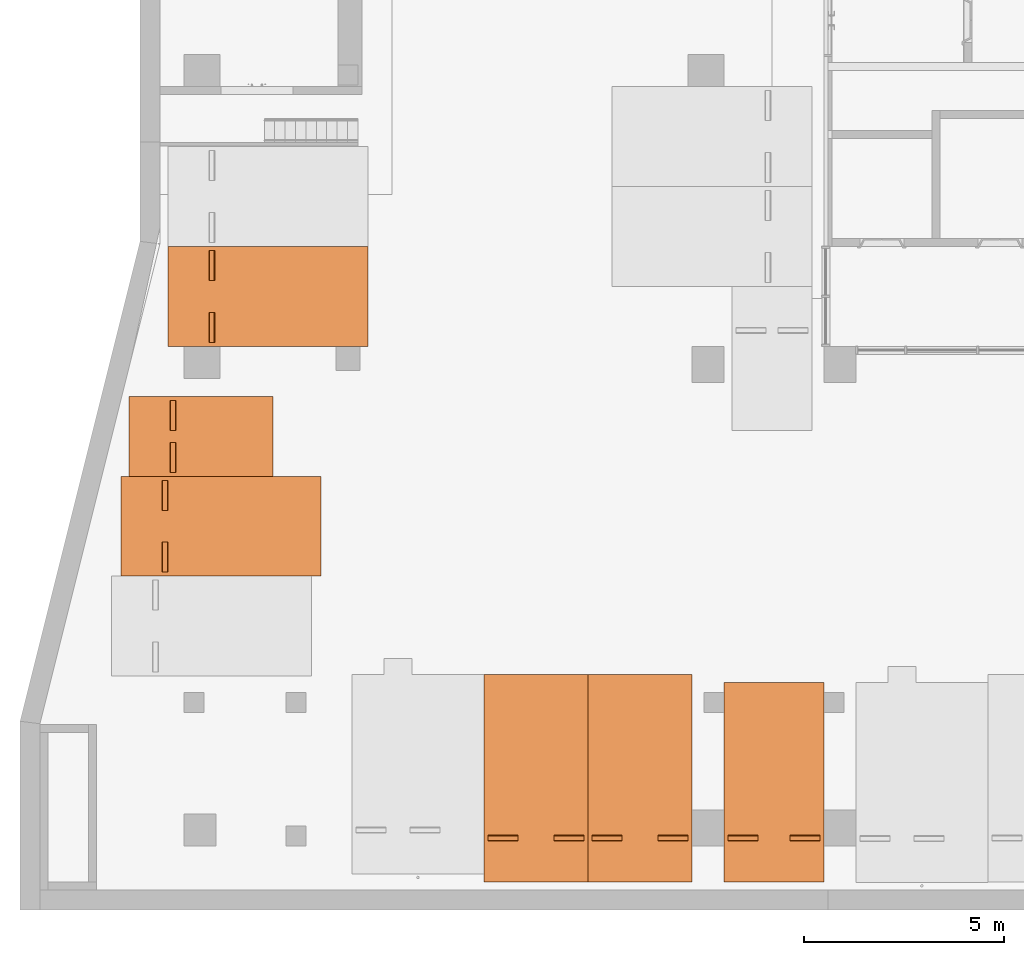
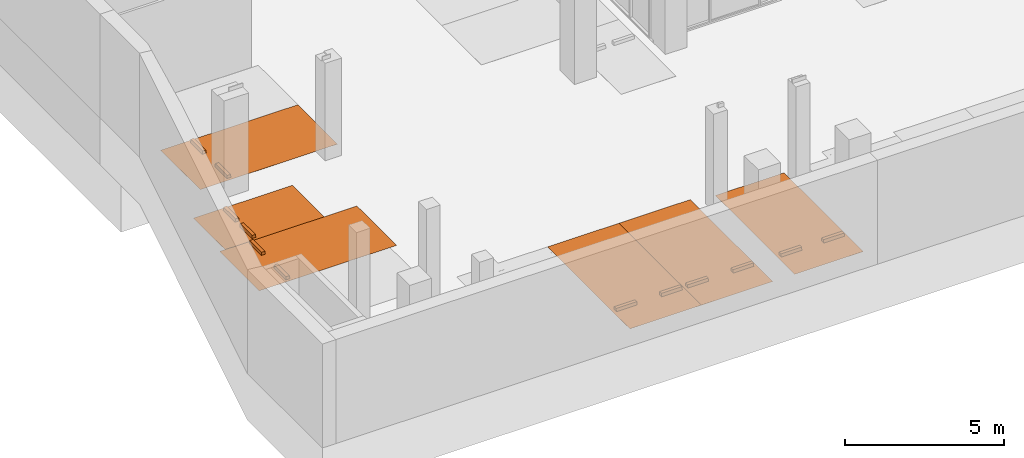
# One storey, part 29 of 30: 6 proxies.
"""IFC2X3 building model written with IfcOpenShell, lengths in millimetres."""

import ifcopenshell
import ifcopenshell.guid

model = None  # the IFC model being written
_history = None  # IfcOwnerHistory: only IFC2X3 demands one
_inside = {}  # id of a spatial element -> (the spatial element, [elements in it])
_under = {}  # id of a project, library or spatial element -> (it, [spatial elements below it])
_declared = {}  # id of a project -> (the project, [libraries it declares])
_typed = {}  # id of a type object -> (the type object, [elements of that type])
_made_of = {}  # id of a material, layer set ... -> (it, [elements and type objects made of it])


def new_model(schema):
    """Start an empty IFC model of exactly this schema.

    Asked for "IFC4X3", IfcOpenShell would pick the latest addendum, in which some entities
    have other attributes; the version numbers below select the first issue.
    IFC2X3 requires an IfcOwnerHistory on every rooted entity: one is made here for all.
    """
    global model, _history
    if schema == "IFC4X3":
        model = ifcopenshell.file(schema_version=(4, 3, 0, 0))
    else:
        model = ifcopenshell.file(schema=schema)
    _inside.clear()
    _under.clear()
    _declared.clear()
    _typed.clear()
    _made_of.clear()
    _history = None
    if model.schema == "IFC2X3":
        org = make("IfcOrganization", Name="unknown")
        user = make(
            "IfcPersonAndOrganization",
            ThePerson=make("IfcPerson", FamilyName="unknown"),
            TheOrganization=org,
        )
        app = make(
            "IfcApplication",
            ApplicationDeveloper=org,
            Version="unknown",
            ApplicationFullName="unknown",
            ApplicationIdentifier="unknown",
        )
        _history = make(
            "IfcOwnerHistory",
            OwningUser=user,
            OwningApplication=app,
            ChangeAction="ADDED",
            CreationDate=0,
        )
    return model


def make(cls, **values):
    """One entity of the class cls with the attributes given. An attribute that is None is left unset."""
    return model.create_entity(
        cls, **{name: value for name, value in values.items() if value is not None}
    )


def entity(cls, *values):
    """Any entity or typed value of the class cls, its attributes in the order of the schema. None: left unset."""
    e = model.create_entity(cls)
    for i, value in enumerate(values):
        if value is not None:
            e[i] = value
    return e


def rooted(cls, **values):
    """An entity with a GlobalId (a new one), such as an element, a storey or a relation."""
    return make(cls, GlobalId=ifcopenshell.guid.new(), OwnerHistory=_history, **values)


def si_unit(unit_type, name, prefix=None):
    """IfcSIUnit, for example si_unit("LENGTHUNIT", "METRE", prefix="MILLI")."""
    return make("IfcSIUnit", UnitType=unit_type, Prefix=prefix, Name=name)


def converted_unit(unit_type, name, factor, base, dimensions=None, offset=None):
    """IfcConversionBasedUnit, such as the inch: factor (a typed value) times the base unit."""
    return make(
        "IfcConversionBasedUnit"
        if offset is None
        else "IfcConversionBasedUnitWithOffset",
        ConversionOffset=offset,
        Dimensions=None
        if dimensions is None
        else entity("IfcDimensionalExponents", *dimensions),
        UnitType=unit_type,
        Name=name,
        ConversionFactor=make(
            "IfcMeasureWithUnit", ValueComponent=factor, UnitComponent=base
        ),
    )


def derived_unit(unit_type, elements):
    """IfcDerivedUnit: a product of units, each with its exponent."""
    return make(
        "IfcDerivedUnit",
        Elements=[
            make("IfcDerivedUnitElement", Unit=unit, Exponent=power)
            for unit, power in elements
        ],
        UnitType=unit_type,
    )


def assignment(units):
    """IfcUnitAssignment: the units of a project."""
    return None if units is None else make("IfcUnitAssignment", Units=units)


def point(xyz):
    """IfcCartesianPoint."""
    return None if xyz is None else make("IfcCartesianPoint", Coordinates=xyz)


def direction(xyz):
    """IfcDirection."""
    return None if xyz is None else make("IfcDirection", DirectionRatios=xyz)


def frame(location, z_axis=None, x_axis=None):
    """IfcAxis2Placement3D, a coordinate frame: its origin and axes. An axis left out is left unset."""
    return make(
        "IfcAxis2Placement3D",
        Location=point(location),
        Axis=direction(z_axis),
        RefDirection=direction(x_axis),
    )


def frame_2d(location, x_axis=None):
    """IfcAxis2Placement2D, a coordinate frame in the plane: its origin and x axis."""
    return make(
        "IfcAxis2Placement2D", Location=point(location), RefDirection=direction(x_axis)
    )


def origin():
    """The frame at (0, 0, 0) with its axes left unset."""
    return frame((0.0, 0.0, 0.0))


def origin_2d_with_axis():
    """The frame at (0, 0) in the plane with the x axis (1, 0) written out."""
    return frame_2d((0.0, 0.0), x_axis=(1.0, 0.0))


def place(relative_to, where):
    """IfcLocalPlacement: puts the frame where relative to a parent placement (None: the world)."""
    return make(
        "IfcLocalPlacement", PlacementRelTo=relative_to, RelativePlacement=where
    )


def context(
    kind, dimensions, precision=None, world=None, true_north=None, identifier=None
):
    """IfcGeometricRepresentationContext, for example the 3D "Model" context."""
    return make(
        "IfcGeometricRepresentationContext",
        ContextIdentifier=identifier,
        ContextType=kind,
        CoordinateSpaceDimension=dimensions,
        Precision=precision,
        WorldCoordinateSystem=world,
        TrueNorth=true_north,
    )


def subcontext(parent, identifier, kind, view, scale=None):
    """IfcGeometricRepresentationSubContext, for example "Body" below "Model"."""
    return make(
        "IfcGeometricRepresentationSubContext",
        ContextIdentifier=identifier,
        ContextType=kind,
        ParentContext=parent,
        TargetScale=scale,
        TargetView=view,
    )


def project(units=None, contexts=None):
    """IfcProject with its units and contexts."""
    return rooted(
        "IfcProject",
        Name="project",
        RepresentationContexts=contexts,
        UnitsInContext=assignment(units),
    )


def spatial(cls, under=None, at=None, **own):
    """A site, building, storey or space (cls), placed at a placement, below another one or the project."""
    s = rooted(cls, ObjectPlacement=at, **own)
    if under is not None:
        _under.setdefault(under.id(), (under, []))[1].append(s)
    return s


def polyline(points):
    """IfcPolyline through the points."""
    return make("IfcPolyline", Points=[point(p) for p in points])


def profile(cls, at=None, kind="AREA", **sizes):
    """A parametric profile (cls). Its sizes go by their IFC names, for example OverallWidth=200.0."""
    return make(cls, ProfileType=kind, Position=at, **sizes)


def rectangle(**sizes):
    """IfcRectangleProfileDef."""
    return profile("IfcRectangleProfileDef", **sizes)


def outline(outer, holes=None, kind="AREA"):
    """IfcArbitraryClosedProfileDef: a profile drawn as a closed curve; with holes, ...WithVoids."""
    if holes is None:
        return make("IfcArbitraryClosedProfileDef", ProfileType=kind, OuterCurve=outer)
    return make(
        "IfcArbitraryProfileDefWithVoids",
        ProfileType=kind,
        OuterCurve=outer,
        InnerCurves=holes,
    )


def extrude(swept, where, along, depth):
    """IfcExtrudedAreaSolid: the profile swept, set in the frame where, extruded along a direction by depth."""
    return make(
        "IfcExtrudedAreaSolid",
        SweptArea=swept,
        Position=where,
        ExtrudedDirection=direction(along),
        Depth=depth,
    )


def shape(context_of_items, identifier, shape_type, items):
    """IfcShapeRepresentation: the items that make up one representation, for example the "Body"."""
    return make(
        "IfcShapeRepresentation",
        ContextOfItems=context_of_items,
        RepresentationIdentifier=identifier,
        RepresentationType=shape_type,
        Items=items,
    )


def source(mapping_origin, context_of_items, identifier, shape_type, items):
    """IfcRepresentationMap: a shape defined once, which mapped items show again and again."""
    return make(
        "IfcRepresentationMap",
        MappingOrigin=mapping_origin,
        MappedRepresentation=shape(context_of_items, identifier, shape_type, items),
    )


def transform(
    local_origin,
    x_axis=None,
    y_axis=None,
    z_axis=None,
    scale=None,
    scale2=None,
    scale3=None,
    uniform=True,
):
    """IfcCartesianTransformationOperator3D, or its non-uniform kind. x_axis, y_axis, z_axis: its Axis1, 2, 3."""
    if uniform:
        return make(
            "IfcCartesianTransformationOperator3D",
            Axis1=direction(x_axis),
            Axis2=direction(y_axis),
            LocalOrigin=point(local_origin),
            Scale=scale,
            Axis3=direction(z_axis),
        )
    return make(
        "IfcCartesianTransformationOperator3DnonUniform",
        Axis1=direction(x_axis),
        Axis2=direction(y_axis),
        LocalOrigin=point(local_origin),
        Scale=scale,
        Axis3=direction(z_axis),
        Scale2=scale2,
        Scale3=scale3,
    )


def mapped(mapping_source, mapping_target):
    """IfcMappedItem: shows the shape of a source again, moved by a transform."""
    return make(
        "IfcMappedItem", MappingSource=mapping_source, MappingTarget=mapping_target
    )


def material(Name=None, Category=None):
    """IfcMaterial."""
    return make("IfcMaterial", Name=Name, Category=Category)


def material_list(materials):
    """IfcMaterialList."""
    return make("IfcMaterialList", Materials=materials)


def made_of(thing, what):
    """Note that an element or type object is made of a material, layer set ...; save() writes the relation."""
    if what is not None:
        _made_of.setdefault(what.id(), (what, []))[1].append(thing)
    return thing


def type_object(cls, material=None, **own):
    """A type object (cls), such as IfcWallType, which elements share."""
    return made_of(rooted(cls, **own), material)


def type_shapes(of_type, sources):
    """Give a type object the sources (RepresentationMaps) that its elements show as mapped items."""
    of_type.RepresentationMaps = sources


def element(
    cls,
    number,
    at=None,
    inside=None,
    cuts=None,
    type_object=None,
    material=None,
    context=None,
    identifier="Body",
    shape_type=None,
    held_by="IfcProductDefinitionShape",
    body=None,
    shapes=None,
    **own,
):
    """One element of the class cls, such as IfcWall. Its Tag is "e" and its number.

    at: its placement. inside: the storey or other place that contains it. cuts: it is an
    opening in that element (IfcRelVoidsElement). A single representation is given by context,
    identifier, shape_type and body (its items); several are given by shapes. held_by: the class
    of the entity that holds the representations. save() writes the other relations.
    """
    e = rooted(cls, Tag="e%d" % number, ObjectPlacement=at, **own)
    if body is not None:
        shapes = [shape(context, identifier, shape_type, body)]
    if shapes is not None:
        e.Representation = make(held_by, Representations=shapes)
    if inside is not None:
        _inside.setdefault(inside.id(), (inside, []))[1].append(e)
    if cuts is not None:
        rooted(
            "IfcRelVoidsElement", RelatingBuildingElement=cuts, RelatedOpeningElement=e
        )
    if type_object is not None:
        _typed.setdefault(type_object.id(), (type_object, []))[1].append(e)
    return made_of(e, material)


def aggregate(whole, parts):
    """IfcRelAggregates: a whole, such as a stair, and the parts it consists of."""
    return rooted("IfcRelAggregates", RelatingObject=whole, RelatedObjects=parts)


def save(model, path):
    """Write the relations noted so far, then the file.

    IfcRelAggregates (storeys below a building ...), IfcRelContainedInSpatialStructure (elements
    in a storey), IfcRelDefinesByType, IfcRelAssociatesMaterial and IfcRelDeclares: one each for
    every whole, place, type object, material and project.
    """
    for whole, parts in _under.values():
        aggregate(whole, parts)
    for where, things in _inside.values():
        rooted(
            "IfcRelContainedInSpatialStructure",
            RelatedElements=things,
            RelatingStructure=where,
        )
    for kind, things in _typed.values():
        rooted("IfcRelDefinesByType", RelatedObjects=things, RelatingType=kind)
    for what, things in _made_of.values():
        rooted("IfcRelAssociatesMaterial", RelatedObjects=things, RelatingMaterial=what)
    for by, libraries in _declared.values():
        rooted("IfcRelDeclares", RelatingContext=by, RelatedDefinitions=libraries)
    model.write(path)


model = new_model("IFC2X3")

# Units and contexts
model_context = context("Model", 3, precision=0.01, world=origin(), true_north=direction((6.123031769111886e-17, 1.0)))
body_context = subcontext(model_context, "Body", "Model", "MODEL_VIEW")
ifc_project = project(units=[si_unit("LENGTHUNIT", "METRE", prefix="MILLI"), si_unit("AREAUNIT", "SQUARE_METRE"), si_unit("VOLUMEUNIT", "CUBIC_METRE"), converted_unit("PLANEANGLEUNIT", "DEGREE", entity("IfcRatioMeasure", 0.017453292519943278), si_unit("PLANEANGLEUNIT", "RADIAN"), dimensions=[0, 0, 0, 0, 0, 0, 0]), si_unit("MASSUNIT", "GRAM", prefix="KILO"), derived_unit("MASSDENSITYUNIT", [(si_unit("MASSUNIT", "GRAM", prefix="KILO"), 1), (si_unit("LENGTHUNIT", "METRE"), -3)]), derived_unit("MOMENTOFINERTIAUNIT", [(si_unit("LENGTHUNIT", "METRE"), 4)]), si_unit("TIMEUNIT", "SECOND"), si_unit("FREQUENCYUNIT", "HERTZ"), si_unit("THERMODYNAMICTEMPERATUREUNIT", "DEGREE_CELSIUS"), derived_unit("THERMALTRANSMITTANCEUNIT", [(si_unit("MASSUNIT", "GRAM", prefix="KILO"), 1), (si_unit("THERMODYNAMICTEMPERATUREUNIT", "KELVIN"), -1), (si_unit("TIMEUNIT", "SECOND"), -3)]), derived_unit("VOLUMETRICFLOWRATEUNIT", [(si_unit("LENGTHUNIT", "METRE"), 3), (si_unit("TIMEUNIT", "SECOND"), -1)]), derived_unit("MASSFLOWRATEUNIT", [(si_unit("MASSUNIT", "GRAM", prefix="KILO"), 1), (si_unit("TIMEUNIT", "SECOND"), -1)]), derived_unit("ROTATIONALFREQUENCYUNIT", [(si_unit("TIMEUNIT", "SECOND"), -1)]), si_unit("ELECTRICCURRENTUNIT", "AMPERE"), si_unit("ELECTRICVOLTAGEUNIT", "VOLT"), si_unit("POWERUNIT", "WATT"), si_unit("FORCEUNIT", "NEWTON", prefix="KILO"), si_unit("ILLUMINANCEUNIT", "LUX"), si_unit("LUMINOUSFLUXUNIT", "LUMEN"), si_unit("LUMINOUSINTENSITYUNIT", "CANDELA"), derived_unit("USERDEFINED", [(si_unit("MASSUNIT", "GRAM", prefix="KILO"), -1), (si_unit("LENGTHUNIT", "METRE"), -2), (si_unit("TIMEUNIT", "SECOND"), 3), (si_unit("LUMINOUSFLUXUNIT", "LUMEN"), 1)]), derived_unit("SOUNDPOWERUNIT", [(si_unit("MASSUNIT", "GRAM", prefix="KILO"), 1), (si_unit("LENGTHUNIT", "METRE"), 2), (si_unit("TIMEUNIT", "SECOND"), -3)]), derived_unit("SOUNDPRESSUREUNIT", [(si_unit("MASSUNIT", "GRAM", prefix="KILO"), 1), (si_unit("LENGTHUNIT", "METRE"), -1), (si_unit("TIMEUNIT", "SECOND"), -2)]), derived_unit("LINEARVELOCITYUNIT", [(si_unit("LENGTHUNIT", "METRE"), 1), (si_unit("TIMEUNIT", "SECOND"), -1)]), si_unit("PRESSUREUNIT", "PASCAL"), derived_unit("USERDEFINED", [(si_unit("LENGTHUNIT", "METRE"), -2), (si_unit("MASSUNIT", "GRAM", prefix="KILO"), 1), (si_unit("TIMEUNIT", "SECOND"), -2)]), derived_unit("LINEARFORCEUNIT", [(si_unit("MASSUNIT", "GRAM", prefix="KILO"), 1), (si_unit("LENGTHUNIT", "METRE"), 1), (si_unit("TIMEUNIT", "SECOND"), -2), (si_unit("LENGTHUNIT", "METRE"), -1)]), derived_unit("PLANARFORCEUNIT", [(si_unit("MASSUNIT", "GRAM", prefix="KILO"), 1), (si_unit("LENGTHUNIT", "METRE"), 1), (si_unit("TIMEUNIT", "SECOND"), -2), (si_unit("LENGTHUNIT", "METRE"), -2)])], contexts=[model_context])

# Site, building, storey, space
site_placement = place(None, frame((-14167.972527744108, -657.2125860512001, 0.0)))
site = spatial("IfcSite", under=ifc_project, at=site_placement, Name="Default", CompositionType="ELEMENT")
building_placement = place(site_placement, origin())
building = spatial("IfcBuilding", under=site, at=building_placement, Name="Sample Building", CompositionType="ELEMENT")
storey_placement = place(building_placement, frame((0.0, 0.0, -10100.0)))
storey = spatial("IfcBuildingStorey", under=building, at=storey_placement, Name="지하2층", CompositionType="ELEMENT", Elevation=-10100.0)
space_placement = place(storey_placement, origin())
space = spatial("IfcSpace", under=storey, at=space_placement, Name="125", CompositionType="ELEMENT", InteriorOrExteriorSpace="INTERNAL")

# Proxies
ifc_material_1 = material(Name="KBIMS-고무_검은색")
ifc_material_2 = material(Name="KBIMS-에폭시 페인트")
ifc_material_list_1 = material_list([ifc_material_1, ifc_material_1, ifc_material_2])
ifc_material_list_2 = material_list([ifc_material_1, ifc_material_1, ifc_material_2])
building_element_proxy_type_1 = type_object("IfcBuildingElementProxyType", Name="SE251-기본주차:SE251-기본주차 일반형", PredefinedType="NOTDEFINED", material=ifc_material_list_2)
shared_shape_1 = source(origin(), body_context, "Body", "SweptSolid", [
    extrude(outline(polyline([(-52.09458852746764, -66.97875667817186), (68.83927769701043, -66.97875667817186), (50.23406750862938, 81.86292482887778), (-66.9787566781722, 52.09458852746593), (-52.09458852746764, -66.97875667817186)])), frame((220.98490989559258, 2900.0, 60.0), z_axis=(1.0, 0.0, 0.0), x_axis=(0.0, -0.12403473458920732, -0.9922778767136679)), (0.0, 0.0, 1.0), 749.9999999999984),
    extrude(outline(polyline([(-68.8392776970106, -66.97875667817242), (52.09458852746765, -66.9787566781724), (66.97875667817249, 52.09458852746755), (-50.234067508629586, 81.86292482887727), (-68.8392776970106, -66.97875667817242)])), frame((-1329.0150901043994, 2900.0, 60.0), z_axis=(1.0, 0.0, 0.0), x_axis=(0.0, -0.12403473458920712, 0.9922778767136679)), (0.0, 0.0, 1.0), 749.9999999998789),
    extrude(rectangle(XDim=2499.9999999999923, YDim=4999.999999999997, at=origin_2d_with_axis()), frame((-179.01509010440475, 1500.0, 0.0), z_axis=(0.0, 0.0, 1.0), x_axis=(-1.0, 0.0, 0.0)), (0.0, 0.0, 1.0), 1.6),
])
type_shapes(building_element_proxy_type_1, [shared_shape_1])
proxy_1_placement = place(space_placement, frame((28638.95740102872, 3657.1772448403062, 100.0), z_axis=(0.0, 0.0, 1.0), x_axis=(-1.0, 0.0, 0.0)))
element("IfcBuildingElementProxy", 1, at=proxy_1_placement, inside=space, type_object=building_element_proxy_type_1, material=ifc_material_list_1, Name="SE251-기본주차:SE251-기본주차 일반형", ObjectType="SE251-기본주차:SE251-기본주차 일반형", context=body_context, shape_type="MappedRepresentation", body=[
    mapped(shared_shape_1, transform((0.0, 0.0, 0.0), scale=1.0)),
])
ifc_material_list_3 = material_list([ifc_material_1, ifc_material_1, ifc_material_2])
ifc_material_list_4 = material_list([ifc_material_1, ifc_material_1, ifc_material_2])
building_element_proxy_type_2 = type_object("IfcBuildingElementProxyType", Name="SE251-기본주차:SE251-기본주차 확장형", PredefinedType="NOTDEFINED", material=ifc_material_list_4)
shared_shape_2 = source(origin(), body_context, "Body", "SweptSolid", [
    extrude(outline(polyline([(-52.09458852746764, -66.97875667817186), (68.83927769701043, -66.97875667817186), (50.23406750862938, 81.86292482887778), (-66.9787566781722, 52.09458852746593), (-52.09458852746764, -66.97875667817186)])), frame((220.98490989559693, 3100.0, 60.0), z_axis=(1.0, 0.0, 0.0), x_axis=(0.0, -0.12403473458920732, -0.9922778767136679)), (0.0, 0.0, 1.0), 749.9999999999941),
    extrude(outline(polyline([(-68.8392776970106, -66.97875667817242), (52.09458852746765, -66.9787566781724), (66.97875667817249, 52.09458852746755), (-50.234067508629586, 81.86292482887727), (-68.8392776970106, -66.97875667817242)])), frame((-1429.0150901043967, 3100.0, 60.0), z_axis=(1.0, 0.0, 0.0), x_axis=(0.0, -0.12403473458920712, 0.9922778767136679)), (0.0, 0.0, 1.0), 749.9999999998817),
    extrude(rectangle(XDim=2599.999999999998, YDim=5200.000000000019, at=origin_2d_with_axis()), frame((-229.015090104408, 1600.0, 0.0), z_axis=(0.0, 0.0, 1.0), x_axis=(-1.0, 0.0, 0.0)), (0.0, 0.0, 1.0), 1.6),
])
type_shapes(building_element_proxy_type_2, [shared_shape_2])
proxy_2_placement = place(space_placement, frame((25238.957401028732, 3857.1772448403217, 100.0), z_axis=(0.0, 0.0, 1.0), x_axis=(-1.0, 0.0, 0.0)))
element("IfcBuildingElementProxy", 2, at=proxy_2_placement, inside=space, type_object=building_element_proxy_type_2, material=ifc_material_list_3, Name="SE251-기본주차:SE251-기본주차 확장형", ObjectType="SE251-기본주차:SE251-기본주차 확장형", context=body_context, shape_type="MappedRepresentation", body=[
    mapped(shared_shape_2, transform((0.0, 0.0, 0.0), scale=1.0)),
])
ifc_material_list_5 = material_list([ifc_material_1, ifc_material_2])
proxy_3_placement = place(space_placement, frame((22638.957401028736, 3857.1772448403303, 100.0), z_axis=(0.0, 0.0, 1.0), x_axis=(-1.0, 0.0, 0.0)))
element("IfcBuildingElementProxy", 3, at=proxy_3_placement, inside=space, type_object=building_element_proxy_type_2, material=ifc_material_list_5, Name="SE251-기본주차:SE251-기본주차 확장형", ObjectType="SE251-기본주차:SE251-기본주차 확장형", context=body_context, shape_type="MappedRepresentation", body=[
    mapped(shared_shape_2, transform((0.0, 0.0, 0.0), scale=1.0)),
])
ifc_material_list_6 = material_list([ifc_material_1, ifc_material_2])
ifc_material_list_7 = material_list([ifc_material_1, ifc_material_1, ifc_material_2])
building_element_proxy_type_3 = type_object("IfcBuildingElementProxyType", Name="SE251-기본주차:SE251-기본주차 일반형", PredefinedType="NOTDEFINED", material=ifc_material_list_7)
shared_shape_3 = source(origin(), body_context, "Body", "SweptSolid", [
    extrude(outline(polyline([(-60.0, -60.0), (60.0, -60.0), (75.0, 60.0), (-75.0, 60.0), (-60.0, -60.0)])), frame((220.98490989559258, -2900.0, 60.0), z_axis=(1.0, 0.0, 0.0), x_axis=(0.0, -1.0, 0.0)), (0.0, 0.0, 1.0), 749.9999999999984),
    extrude(outline(polyline([(-75.0, -60.0), (75.0, -60.0), (60.0, 60.0), (-60.0, 60.0), (-75.0, -60.0)])), frame((-1329.0150901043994, -2900.0, 60.0), z_axis=(1.0, 0.0, 0.0), x_axis=(0.0, 1.0, 0.0)), (0.0, 0.0, 1.0), 749.999999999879),
    extrude(rectangle(XDim=4999.999999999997, YDim=2499.9999999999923, at=origin_2d_with_axis()), frame((-179.01509010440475, -1500.0, 0.0), z_axis=(0.0, 0.0, 1.0), x_axis=(0.0, 1.0, 0.0)), (0.0, 0.0, 1.0), 1.6),
])
type_shapes(building_element_proxy_type_3, [shared_shape_3])
proxy_4_placement = place(space_placement, frame((16492.94421395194, 8379.308499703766, 100.0), z_axis=(0.0, 0.0, 1.0), x_axis=(0.0, -1.0, 0.0)))
element("IfcBuildingElementProxy", 4, at=proxy_4_placement, inside=space, type_object=building_element_proxy_type_3, material=ifc_material_list_6, Name="SE251-기본주차:SE251-기본주차 일반형", ObjectType="SE251-기본주차:SE251-기본주차 일반형", context=body_context, shape_type="MappedRepresentation", body=[
    mapped(shared_shape_3, transform((0.0, 0.0, 0.0), scale=1.0)),
])
ifc_material_list_8 = material_list([ifc_material_1, ifc_material_2])
proxy_5_placement = place(space_placement, frame((17664.34207337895, 14128.162102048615, 100.0), z_axis=(0.0, 0.0, 1.0), x_axis=(0.0, -1.0, 0.0)))
element("IfcBuildingElementProxy", 5, at=proxy_5_placement, inside=space, type_object=building_element_proxy_type_3, material=ifc_material_list_8, Name="SE251-기본주차:SE251-기본주차 일반형", ObjectType="SE251-기본주차:SE251-기본주차 일반형", context=body_context, shape_type="MappedRepresentation", body=[
    mapped(shared_shape_3, transform((0.0, 0.0, 0.0), scale=1.0)),
])
ifc_material_list_9 = material_list([ifc_material_1, ifc_material_1, ifc_material_2])
ifc_material_list_10 = material_list([ifc_material_1, ifc_material_1, ifc_material_2])
building_element_proxy_type_4 = type_object("IfcBuildingElementProxyType", Name="SE251-기본주차:SE251-기본주차 경형", PredefinedType="NOTDEFINED", material=ifc_material_list_10)
shared_shape_4 = source(origin(), body_context, "Body", "SweptSolid", [
    extrude(outline(polyline([(-60.0, -60.0), (60.0, -60.0), (75.0, 60.0), (-75.0, 60.0), (-60.0, -60.0)])), frame((220.98490989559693, -1500.0, 60.0), z_axis=(1.0, 0.0, 0.0), x_axis=(0.0, -1.0, 0.0)), (0.0, 0.0, 1.0), 749.9999999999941),
    extrude(outline(polyline([(-75.0, -60.0), (75.0, -60.0), (60.0, 60.0), (-60.0, 60.0), (-75.0, -60.0)])), frame((-829.0150901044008, -1500.0, 60.0), z_axis=(1.0, 0.0, 0.0), x_axis=(0.0, 1.0, 0.0)), (0.0, 0.0, 1.0), 749.9999999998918),
    extrude(rectangle(XDim=3600.000000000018, YDim=1999.999999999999, at=frame_2d((0.0, 5.684341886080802e-14), x_axis=(1.0, 0.0))), frame((70.98490989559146, -800.0, 0.0), z_axis=(0.0, 0.0, 1.0), x_axis=(0.0, 1.0, 0.0)), (0.0, 0.0, 1.0), 1.6),
])
type_shapes(building_element_proxy_type_4, [shared_shape_4])
proxy_6_placement = place(space_placement, frame((15296.155973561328, 10879.308499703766, 100.0), z_axis=(0.0, 0.0, 1.0), x_axis=(0.0, -1.0, 0.0)))
element("IfcBuildingElementProxy", 6, at=proxy_6_placement, inside=space, type_object=building_element_proxy_type_4, material=ifc_material_list_9, Name="SE251-기본주차:SE251-기본주차 경형", ObjectType="SE251-기본주차:SE251-기본주차 경형", context=body_context, shape_type="MappedRepresentation", body=[
    mapped(shared_shape_4, transform((0.0, 0.0, 0.0), scale=1.0)),
])

save(model, "model.ifc")
